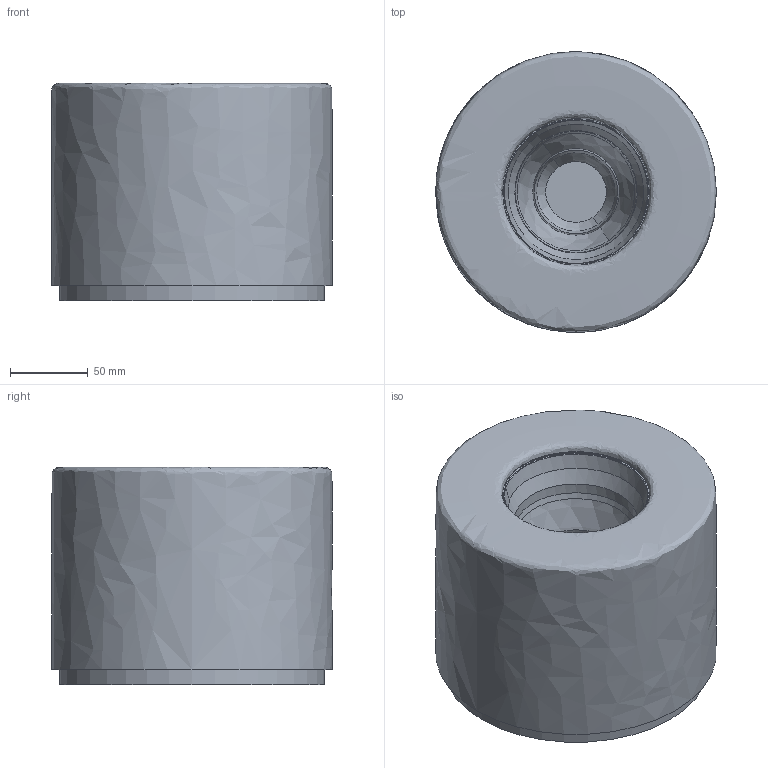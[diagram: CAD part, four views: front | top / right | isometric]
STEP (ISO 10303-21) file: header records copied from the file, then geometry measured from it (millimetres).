
FILE_DESCRIPTION(/* description */ (''),/* implementation_level */ '2;1');
FILE_NAME(/* name */ 'C:/Users/elena/OneDrive/Allegati di posta elettronica/Desktop/Iride Ceiling Maxi.step',/* time_stamp */ '2020-05-12T15:47:22+02:00',/* author */ (''),/* organization */ (''),/* preprocessor_version */ 'ST-DEVELOPER v18.1',/* originating_system */ 'Autodesk Translation Framework v9.2.0.1227',/* authorisation */ '');
FILE_SCHEMA (('AUTOMOTIVE_DESIGN { 1 0 10303 214 3 1 1 }'));
Length unit declared in the file: millimetre
Products named in the file (1): Pubblico
Bounding box: 180 x 180 x 139.69 mm (x, y, z)
Volume: 1190846.9 mm3; surface area: 283788.1 mm2
Topology: 5 solids, 5 shells, 160 faces, 440 edges, 297 vertices
Faces by surface type: plane 83, bspline 39, cone 23, cylinder 10, torus 5
Full cylindrical faces by diameter (mm): 3 x6, 86 x1, 111.2 x1, 170 x2
Entity records: 7820 total; most frequent: CARTESIAN_POINT 3864, ORIENTED_EDGE 880, DIRECTION 739, EDGE_CURVE 440, VERTEX_POINT 297, AXIS2_PLACEMENT_3D 296, EDGE_LOOP 181, CIRCLE 174
